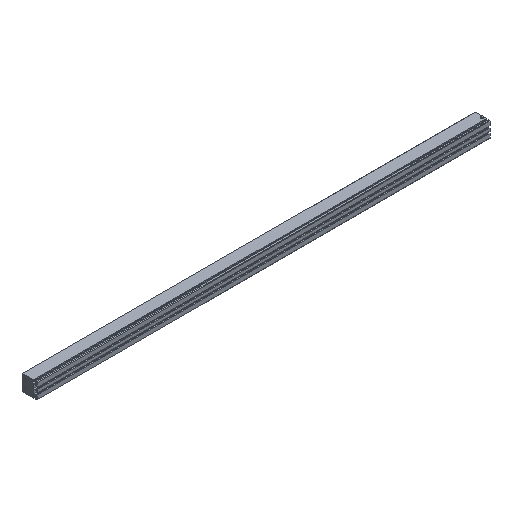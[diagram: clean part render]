
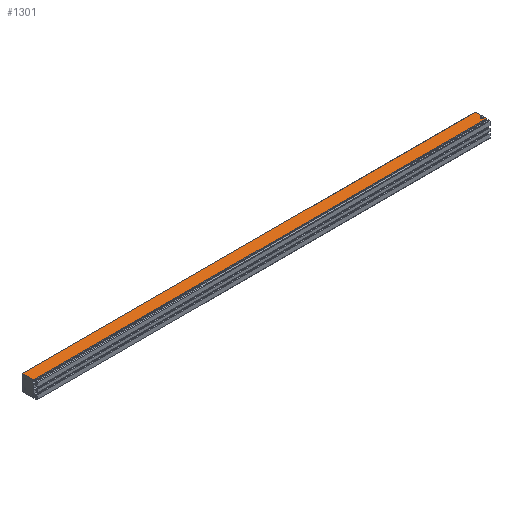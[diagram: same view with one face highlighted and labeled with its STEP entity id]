
A CAD part, isometric view. The second image highlights one B-rep face of the part: STEP entity #1301.
In plain terms, the highlighted planar face has unit normal (0, 0, 1).
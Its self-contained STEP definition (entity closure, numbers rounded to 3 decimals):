
#49 = DIRECTION ( 'NONE',  ( -1., 0., 0. ) ) ;
#126 = DIRECTION ( 'NONE',  ( -1., 0., 0. ) ) ;
#155 = DIRECTION ( 'NONE',  ( 1., 0., 0. ) ) ;
#158 = VERTEX_POINT ( 'NONE', #1987 ) ;
#160 = EDGE_LOOP ( 'NONE', ( #1955, #206 ) ) ;
#172 = DIRECTION ( 'NONE',  ( -1., 0., 0. ) ) ;
#178 = CARTESIAN_POINT ( 'NONE',  ( 817.15, 11.392, 0. ) ) ;
#199 = ORIENTED_EDGE ( 'NONE', *, *, #987, .T. ) ;
#206 = ORIENTED_EDGE ( 'NONE', *, *, #1749, .F. ) ;
#212 = CARTESIAN_POINT ( 'NONE',  ( 820., 26.7, 0. ) ) ;
#454 = VERTEX_POINT ( 'NONE', #793 ) ;
#461 = VERTEX_POINT ( 'NONE', #1117 ) ;
#492 = CARTESIAN_POINT ( 'NONE',  ( 820., 6.6, 0. ) ) ;
#521 = CIRCLE ( 'NONE', #1380, 1.85 ) ;
#538 = EDGE_CURVE ( 'NONE', #1750, #1298, #1787, .T. ) ;
#549 = ORIENTED_EDGE ( 'NONE', *, *, #1103, .T. ) ;
#622 = CARTESIAN_POINT ( 'NONE',  ( 815.3, 11.392, 0. ) ) ;
#657 = CARTESIAN_POINT ( 'NONE',  ( 0., 6.6, 0. ) ) ;
#684 = CARTESIAN_POINT ( 'NONE',  ( 820., 0., 0. ) ) ;
#694 = CARTESIAN_POINT ( 'NONE',  ( 817.15, 11.392, 0. ) ) ;
#730 = DIRECTION ( 'NONE',  ( 0., 0., -1. ) ) ;
#752 = VECTOR ( 'NONE', #126, 1000. ) ;
#787 = VECTOR ( 'NONE', #839, 1000. ) ;
#793 = CARTESIAN_POINT ( 'NONE',  ( 819., 11.392, 0. ) ) ;
#838 = CIRCLE ( 'NONE', #1426, 1.85 ) ;
#839 = DIRECTION ( 'NONE',  ( 0., -1., 0. ) ) ;
#987 = EDGE_CURVE ( 'NONE', #1750, #461, #1829, .T. ) ;
#1016 = LINE ( 'NONE', #1579, #1236 ) ;
#1039 = VERTEX_POINT ( 'NONE', #622 ) ;
#1103 = EDGE_CURVE ( 'NONE', #461, #158, #1016, .T. ) ;
#1117 = CARTESIAN_POINT ( 'NONE',  ( 0., 26.7, 0. ) ) ;
#1122 = CARTESIAN_POINT ( 'NONE',  ( 820., 0., 0. ) ) ;
#1144 = PLANE ( 'NONE',  #1369 ) ;
#1152 = EDGE_CURVE ( 'NONE', #158, #1298, #1651, .T. ) ;
#1234 = CARTESIAN_POINT ( 'NONE',  ( 820., 26.7, 0. ) ) ;
#1236 = VECTOR ( 'NONE', #1602, 1000. ) ;
#1238 = ORIENTED_EDGE ( 'NONE', *, *, #538, .F. ) ;
#1298 = VERTEX_POINT ( 'NONE', #492 ) ;
#1301 = ADVANCED_FACE ( 'NONE', ( #1933, #1857 ), #1144, .F. ) ;
#1369 = AXIS2_PLACEMENT_3D ( 'NONE', #1122, #730, #1838 ) ;
#1380 = AXIS2_PLACEMENT_3D ( 'NONE', #694, #1640, #49 ) ;
#1426 = AXIS2_PLACEMENT_3D ( 'NONE', #178, #1755, #172 ) ;
#1494 = EDGE_LOOP ( 'NONE', ( #1238, #199, #549, #1595 ) ) ;
#1548 = EDGE_CURVE ( 'NONE', #1039, #454, #838, .T. ) ;
#1579 = CARTESIAN_POINT ( 'NONE',  ( 0., 0., 0. ) ) ;
#1595 = ORIENTED_EDGE ( 'NONE', *, *, #1152, .T. ) ;
#1602 = DIRECTION ( 'NONE',  ( 0., -1., 0. ) ) ;
#1640 = DIRECTION ( 'NONE',  ( 0., 0., 1. ) ) ;
#1651 = LINE ( 'NONE', #657, #2046 ) ;
#1749 = EDGE_CURVE ( 'NONE', #454, #1039, #521, .T. ) ;
#1750 = VERTEX_POINT ( 'NONE', #212 ) ;
#1755 = DIRECTION ( 'NONE',  ( 0., 0., 1. ) ) ;
#1787 = LINE ( 'NONE', #684, #787 ) ;
#1829 = LINE ( 'NONE', #1234, #752 ) ;
#1838 = DIRECTION ( 'NONE',  ( -1., 0., 0. ) ) ;
#1857 = FACE_OUTER_BOUND ( 'NONE', #1494, .T. ) ;
#1933 = FACE_BOUND ( 'NONE', #160, .T. ) ;
#1955 = ORIENTED_EDGE ( 'NONE', *, *, #1548, .F. ) ;
#1987 = CARTESIAN_POINT ( 'NONE',  ( 0., 6.6, 0. ) ) ;
#2046 = VECTOR ( 'NONE', #155, 1000. ) ;
